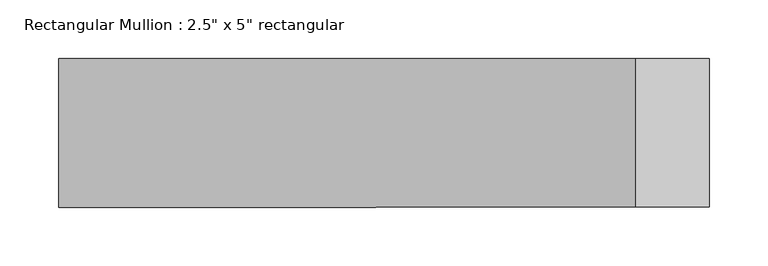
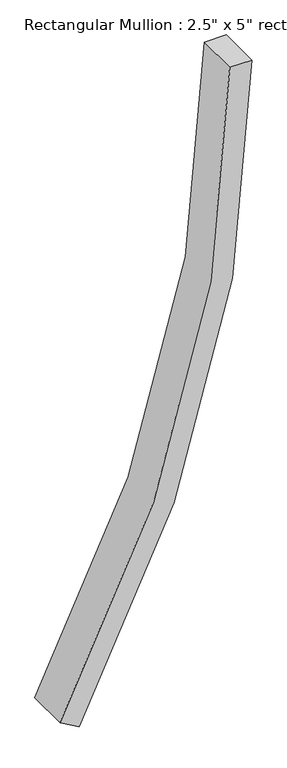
"""IFC4 building model written with IfcOpenShell, lengths in millimetres: member geometry."""

from ifc_helpers import new_model, si_unit, point, frame, frame_2d, origin, place, context, project, spatial, polyline, circle_curve, trimmed, segment, composite_curve, outline, extrude, source, transform, mapped, element, save


def member_4be7d09b(model_context):
    return source(origin(), model_context, "Body", "SweptSolid", [
        extrude(outline(composite_curve([segment(trimmed(circle_curve(frame_2d((0.0, -3722.1588985)), 3722.1588985), [point((-1864.3694749, -500.5764726))], [point((0.0, 0.0))], False, "CARTESIAN"), True, "CONTINUOUS"), segment(polyline([(0.0, 0.0), (0.0, -63.5)]), True, "CONTINUOUS"), segment(trimmed(circle_curve(frame_2d((0.0, -3722.1588985)), 3658.6588985), [point((0.0, -63.5))], [point((-1832.5633471, -555.5366422))], True, "CARTESIAN"), True, "CONTINUOUS"), segment(polyline([(-1832.5633471, -555.5366422), (-1864.3694749, -500.5764726)]), True, "CONTINUOUS")], self_intersect=False)), frame((0.0, -63.5, 0.0), z_axis=(0.0, 1.0, 0.0), x_axis=(0.0, 0.0, 1.0)), (0.0, 0.0, 1.0), 127.0),
    ])


if __name__ == "__main__":
    model = new_model("IFC4")
    model_context = context("Model", 3, world=origin())
    ifc_project = project(units=[si_unit("LENGTHUNIT", "METRE", prefix="MILLI")], contexts=[model_context])
    site = spatial("IfcSite", under=ifc_project)
    building = spatial("IfcBuilding", under=site)
    placement = place(None, origin())
    member_shape = member_4be7d09b(model_context)
    element("IfcMember", 1, ObjectType="Rectangular Mullion : 2.5\" x 5\" rectangular", at=placement, inside=building, context=model_context, shape_type="MappedRepresentation", body=[
        mapped(member_shape, transform((0.0, 0.0, 0.0), x_axis=(1.0, 0.0, 0.0), y_axis=(0.0, 1.0, 0.0), z_axis=(0.0, 0.0, 1.0))),
    ])
    save(model, "model.ifc")
